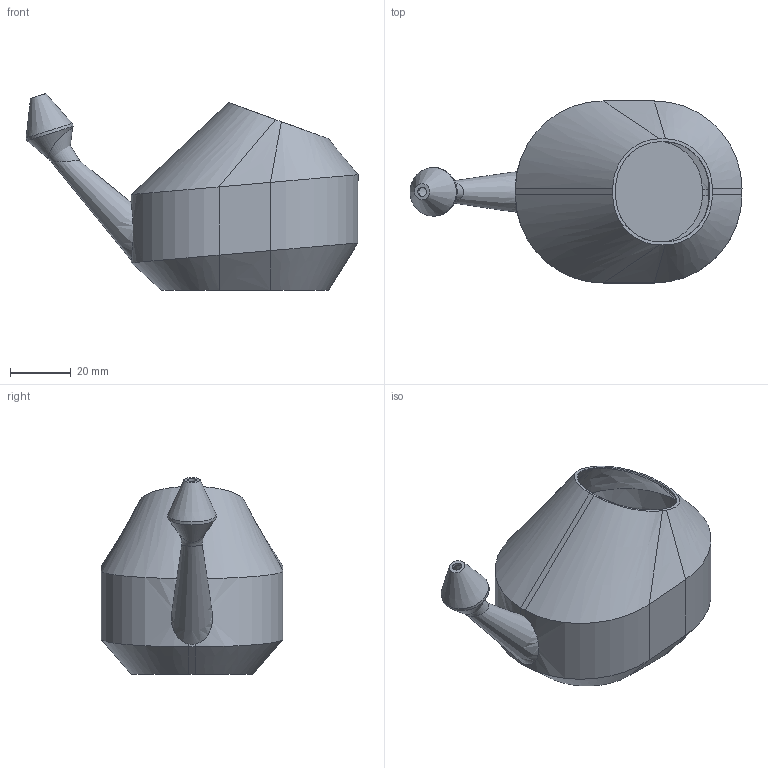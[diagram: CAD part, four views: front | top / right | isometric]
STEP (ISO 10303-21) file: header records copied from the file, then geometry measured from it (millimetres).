
FILE_DESCRIPTION(('STEP AP203'), '1');
FILE_NAME('netty pot v2', '', ('UNSPECIFIED'), ('UNSPECIFIED'), 'C3D Converter', 'C3D Toolkit', '');
FILE_SCHEMA(('CONFIG_CONTROL_DESIGN'));
Length unit declared in the file: millimetre
Bounding box: 109.48 x 60 x 64.93 mm (x, y, z)
Volume: 15701.4 mm3; surface area: 31199.3 mm2
Topology: 1 solids, 1 shells, 86 faces, 199 edges, 116 vertices
Faces by surface type: bspline 46, plane 27, cylinder 9, cone 4
Full cylindrical faces by diameter (mm): 3 x1, 14 x1, 16 x1
Entity records: 9866 total; most frequent: CARTESIAN_POINT 8229, ORIENTED_EDGE 376, DIRECTION 218, EDGE_CURVE 188, VERTEX_POINT 116, EDGE_LOOP 100, ADVANCED_FACE 86, B_SPLINE_CURVE_WITH_KNOTS 82
